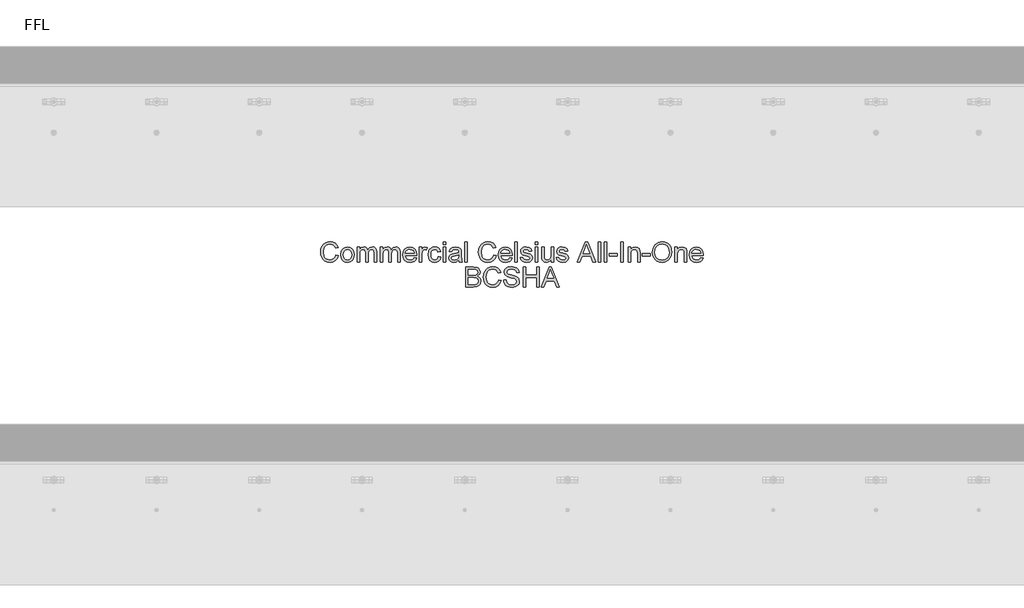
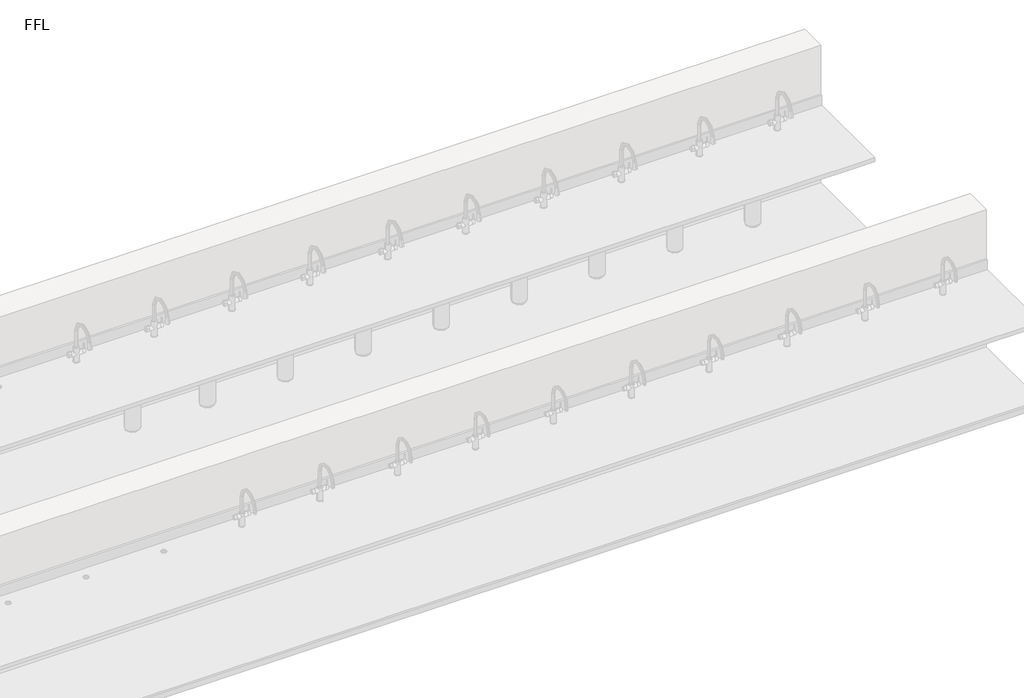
# One storey, part 10 of 10: 1 proxy.
"""IFC4 building model written with IfcOpenShell, lengths in millimetres."""

from ifc_helpers import new_model, si_unit, origin, origin_with_axes, place, context, project, spatial, polyline, outline, extrude, element, save

model = new_model("IFC4")

# Units and contexts
model_context = context("Model", 3, world=origin())
ifc_project = project(units=[si_unit("LENGTHUNIT", "METRE", prefix="MILLI")], contexts=[model_context])

# Site, building, storey
site = spatial("IfcSite", under=ifc_project)
building = spatial("IfcBuilding", under=site)
storey = spatial("IfcBuildingStorey", under=building, Name="FFL", Elevation=0.0)

# Proxy
placement = place(None, origin())
element("IfcBuildingElementProxy", 1, Name="150mm Arial", ObjectType="150mm Arial", at=placement, inside=storey, context=model_context, shape_type="SweptSolid", body=[
    extrude(outline(polyline([(6342.1877841, 6596.3018309), (6360.6493225, 6591.5422155), (6352.1306927, 6570.0292948), (6338.7623033, 6554.3126482), (6321.2022071, 6544.698766), (6300.1084571, 6541.4941386), (6278.6946951, 6543.9190184), (6261.688986, 6551.1936578), (6248.6541302, 6563.065653), (6239.1529283, 6579.2826001), (6233.352147, 6598.3481049), (6231.4185533, 6618.7657732), (6233.6045509, 6640.3012299), (6240.1625437, 6658.8979847), (6250.7499836, 6673.9655929), (6265.0243225, 6684.9136097), (6281.9534091, 6691.5797756), (6300.5050917, 6693.8018309), (6320.7469788, 6690.9262299), (6337.4822552, 6682.299427), (6350.1880845, 6668.4532732), (6358.3416302, 6649.9196193), (6339.8800917, 6645.5205809), (6333.4798514, 6658.9836217), (6324.735861, 6668.2188982), (6313.5399475, 6673.5599439), (6299.7839379, 6675.3402924), (6283.9275677, 6673.3661338), (6270.9017264, 6667.4436578), (6261.0174115, 6658.1948597), (6254.5856206, 6646.2417347), (6249.8800917, 6618.8018309), (6255.4510052, 6586.9989463), (6262.5723994, 6575.1224439), (6272.7947552, 6566.6804367), (6285.0498634, 6561.6368669), (6298.2695148, 6559.955677), (6313.6796711, 6562.2453405), (6326.5207167, 6569.1143309), (6336.2157288, 6580.4905328), (6342.1877841, 6596.3018309)])), origin_with_axes(), (0.0, 0.0, 1.0), 5.0),
    extrude(outline(polyline([(6379.110861, 6598.0326001), (6383.1042504, 6624.1834415), (6395.0844187, 6642.5638501), (6409.8861014, 6651.5692588), (6427.6084571, 6654.5710617), (6447.0029884, 6650.9157131), (6462.4942744, 6639.9496674), (6472.649022, 6622.5383092), (6476.0339379, 6599.5470232), (6474.5375437, 6580.8961818), (6470.048361, 6566.6984655), (6462.697099, 6556.0659535), (6452.6144667, 6548.1107251), (6440.6388057, 6543.1482852), (6427.6084571, 6541.4941386), (6407.9795509, 6545.1359655), (6392.5062937, 6556.0614463), (6382.4597191, 6573.8378886), (6379.110861, 6598.0326001)]), holes=[polyline([(6397.5723994, 6598.0686578), (6399.7088177, 6581.3604246), (6406.1180725, 6569.456879), (6415.7635052, 6562.3309775), (6427.6084571, 6559.955677), (6439.3993225, 6562.3444992), (6449.0267264, 6569.5109655), (6455.4359812, 6581.5722636), (6457.5723994, 6598.6455809), (6455.4224595, 6614.8670352), (6448.9726398, 6626.6083213), (6439.3317143, 6633.7342227), (6427.6084571, 6636.1095232), (6415.7635052, 6633.7432371), (6406.1180725, 6626.644379), (6399.7088177, 6614.7678766), (6397.5723994, 6598.0686578)])]), origin_with_axes(), (0.0, 0.0, 1.0), 5.0),
    extrude(outline(polyline([(6496.8031687, 6543.8018309), (6496.8031687, 6652.2633693), (6515.2647071, 6652.2633693), (6515.2647071, 6634.4148117), (6527.9570148, 6649.0362059), (6546.0219187, 6654.5710617), (6556.2893466, 6653.1603044), (6564.5195148, 6648.9280328), (6574.6877841, 6633.1167347), (6589.0928321, 6649.2074799), (6607.2839379, 6654.5710617), (6621.1616422, 6652.3399919), (6631.4245629, 6645.6467828), (6637.7662095, 6634.3111458), (6639.8800917, 6618.1527924), (6639.8800917, 6543.8018309), (6621.4185533, 6543.8018309), (6621.4185533, 6610.2201001), (6619.7058129, 6625.6347636), (6613.5038898, 6633.2249078), (6602.9570148, 6636.1095232), (6592.9555124, 6634.2615665), (6584.8019667, 6628.7176963), (6579.3797913, 6619.0993068), (6577.5723994, 6605.0277924), (6577.5723994, 6543.8018309), (6559.110861, 6543.8018309), (6559.110861, 6612.2753886), (6554.8380244, 6630.160004), (6549.1995028, 6634.6221434), (6540.829611, 6636.1095232), (6527.1637456, 6632.143177), (6518.0772071, 6620.5326001), (6515.2647071, 6598.5013501), (6515.2647071, 6543.8018309), (6496.8031687, 6543.8018309)])), origin_with_axes(), (0.0, 0.0, 1.0), 5.0),
    extrude(outline(polyline([(6667.5723994, 6543.8018309), (6667.5723994, 6652.2633693), (6686.0339379, 6652.2633693), (6686.0339379, 6634.4148117), (6698.7262456, 6649.0362059), (6716.7911494, 6654.5710617), (6727.0585773, 6653.1603044), (6735.2887456, 6648.9280328), (6745.4570148, 6633.1167347), (6759.8620629, 6649.2074799), (6778.0531687, 6654.5710617), (6791.930873, 6652.3399919), (6802.1937937, 6645.6467828), (6808.5354403, 6634.3111458), (6810.6493225, 6618.1527924), (6810.6493225, 6543.8018309), (6792.1877841, 6543.8018309), (6792.1877841, 6610.2201001), (6790.4750437, 6625.6347636), (6784.2731206, 6633.2249078), (6773.7262456, 6636.1095232), (6763.7247432, 6634.2615665), (6755.5711975, 6628.7176963), (6750.149022, 6619.0993068), (6748.3416302, 6605.0277924), (6748.3416302, 6543.8018309), (6729.8800917, 6543.8018309), (6729.8800917, 6612.2753886), (6725.6072552, 6630.160004), (6719.9687336, 6634.6221434), (6711.5988417, 6636.1095232), (6697.9329764, 6632.143177), (6688.8464379, 6620.5326001), (6686.0339379, 6598.5013501), (6686.0339379, 6543.8018309), (6667.5723994, 6543.8018309)])), origin_with_axes(), (0.0, 0.0, 1.0), 5.0),
    extrude(outline(polyline([(6914.2791302, 6576.1095232), (6932.3800917, 6573.8018309), (6925.8581566, 6560.1630088), (6915.4510052, 6549.9676963), (6901.3930124, 6543.612528), (6883.9185533, 6541.4941386), (6862.2568946, 6545.1494871), (6845.5892264, 6556.1155328), (6834.9612216, 6573.6801362), (6831.4185533, 6597.1311578), (6834.9972792, 6621.3709415), (6845.7334571, 6639.4989463), (6862.1757648, 6650.8030328), (6882.8728802, 6654.5710617), (6902.9254643, 6650.8120472), (6918.9486014, 6639.535004), (6929.4549115, 6621.4430568), (6932.9570148, 6597.2393309), (6932.8488417, 6592.2633693), (6849.8800917, 6592.2633693), (6853.0757047, 6578.4442588), (6860.4990821, 6568.285004), (6871.212724, 6562.0380088), (6884.2791302, 6559.955677), (6902.3800917, 6563.8138501), (6914.2791302, 6576.1095232)]), holes=[polyline([(6849.8800917, 6610.7249078), (6914.4954764, 6610.7249078), (6911.9984812, 6620.4785136), (6907.1036494, 6627.455677), (6896.3404283, 6633.9460617), (6882.8007648, 6636.1095232), (6870.3563538, 6634.3832612), (6860.0663898, 6629.2044751), (6852.9134451, 6621.1320592), (6849.8800917, 6610.7249078)])]), origin_with_axes(), (0.0, 0.0, 1.0), 5.0),
    extrude(outline(polyline([(6951.4185533, 6543.8018309), (6951.4185533, 6652.2633693), (6967.5723994, 6652.2633693), (6967.5723994, 6636.2176963), (6979.0387456, 6651.0013501), (6990.5772071, 6654.5710617), (7009.110861, 6648.8739463), (7002.9449956, 6632.3234655), (6989.9642264, 6636.1095232), (6979.5255244, 6632.4676963), (6972.8728802, 6622.3715424), (6969.8800917, 6600.8090424), (6969.8800917, 6543.8018309), (6951.4185533, 6543.8018309)])), origin_with_axes(), (0.0, 0.0, 1.0), 5.0),
    extrude(outline(polyline([(7089.8800917, 6583.0326001), (7108.3416302, 6580.7249078), (7103.1943946, 6564.3051362), (7093.5219187, 6551.8967828), (7080.2346591, 6544.0947996), (7064.2430725, 6541.4941386), (7044.6051518, 6545.1224439), (7029.2490821, 6556.0073597), (7019.337724, 6573.6711217), (7016.0339379, 6597.6359655), (7021.6769667, 6628.3030328), (7028.798361, 6639.8009294), (7038.876486, 6648.0085617), (7050.9332768, 6652.9304367), (7063.9906687, 6654.5710617), (7079.5901278, 6652.3174559), (7092.0615821, 6645.5566386), (7101.008397, 6634.6491867), (7106.0339379, 6619.955677), (7087.5723994, 6617.6479847), (7079.0086975, 6631.4761097), (7064.1348994, 6636.1095232), (7052.2043105, 6633.8288742), (7042.7346591, 6626.986927), (7036.555272, 6615.2140905), (7034.4954764, 6598.1407732), (7036.5101999, 6580.8375881), (7042.5543706, 6569.0241867), (7051.852748, 6562.2228044), (7063.6300917, 6559.955677), (7073.1898874, 6561.3709415), (7081.0279283, 6565.6167347), (7086.7295509, 6572.8012299), (7089.8800917, 6583.0326001)])), origin_with_axes(), (0.0, 0.0, 1.0), 5.0),
    extrude(outline(polyline([(7124.4954764, 6673.0326001), (7124.4954764, 6691.4941386), (7142.9570148, 6691.4941386), (7142.9570148, 6673.0326001), (7124.4954764, 6673.0326001)])), origin_with_axes(), (0.0, 0.0, 1.0), 5.0),
    extrude(outline(polyline([(7124.4954764, 6543.8018309), (7124.4954764, 6652.2633693), (7142.9570148, 6652.2633693), (7142.9570148, 6543.8018309), (7124.4954764, 6543.8018309)])), origin_with_axes(), (0.0, 0.0, 1.0), 5.0),
    extrude(outline(polyline([(7239.8800917, 6557.6479847), (7221.9774475, 6545.1359655), (7202.1998033, 6541.4941386), (7186.7716182, 6543.6846434), (7175.3909091, 6550.2561578), (7168.3731807, 6560.2351242), (7166.0339379, 6572.6479847), (7169.5675917, 6587.2513501), (7178.8524475, 6597.8523117), (7191.7791302, 6603.910004), (7207.7526879, 6606.6864463), (7239.7719187, 6613.0326001), (7239.8800917, 6617.143177), (7238.6090581, 6625.3823597), (7234.7959571, 6630.7729847), (7226.2683129, 6634.7753886), (7214.3873033, 6636.1095232), (7195.7094187, 6632.5578405), (7186.8031687, 6619.955677), (7168.3416302, 6622.2633693), (7176.3284091, 6640.2922155), (7192.4101398, 6650.8571193), (7216.767111, 6654.5710617), (7239.1409091, 6651.2898117), (7251.7791302, 6643.050629), (7257.4401879, 6630.5205809), (7258.3416302, 6614.3667347), (7258.3416302, 6591.3979847), (7259.2791302, 6559.3246674), (7262.9570148, 6543.8018309), (7244.4954764, 6543.8018309), (7239.8800917, 6557.6479847)]), holes=[polyline([(7239.8800917, 6594.5710617), (7210.0964379, 6588.910004), (7194.2130244, 6585.9172155), (7187.0195148, 6581.049427), (7184.4954764, 6573.9460617), (7189.9942744, 6563.9580809), (7206.1300917, 6559.955677), (7224.8079764, 6564.3727443), (7236.8512456, 6575.0638501), (7239.7719187, 6589.3426963), (7239.8800917, 6594.5710617)])]), origin_with_axes(), (0.0, 0.0, 1.0), 5.0),
    extrude(outline(polyline([(7283.7262456, 6543.8018309), (7283.7262456, 6691.4941386), (7302.1877841, 6691.4941386), (7302.1877841, 6543.8018309), (7283.7262456, 6543.8018309)])), origin_with_axes(), (0.0, 0.0, 1.0), 5.0),
    extrude(outline(polyline([(7493.7262456, 6596.3018309), (7512.1877841, 6591.5422155), (7503.6691542, 6570.0292948), (7490.3007648, 6554.3126482), (7472.7406687, 6544.698766), (7451.6469187, 6541.4941386), (7430.2331566, 6543.9190184), (7413.2274475, 6551.1936578), (7400.1925917, 6563.065653), (7390.6913898, 6579.2826001), (7384.8906086, 6598.3481049), (7382.9570148, 6618.7657732), (7385.1430124, 6640.3012299), (7391.7010052, 6658.8979847), (7402.2884451, 6673.9655929), (7416.5627841, 6684.9136097), (7433.4918706, 6691.5797756), (7452.0435533, 6693.8018309), (7472.2854403, 6690.9262299), (7489.0207167, 6682.299427), (7501.7265461, 6668.4532732), (7509.8800917, 6649.9196193), (7491.4185533, 6645.5205809), (7485.0183129, 6658.9836217), (7476.2743225, 6668.2188982), (7465.0784091, 6673.5599439), (7451.3223994, 6675.3402924), (7435.4660292, 6673.3661338), (7422.4401879, 6667.4436578), (7412.555873, 6658.1948597), (7406.1240821, 6646.2417347), (7401.4185533, 6618.8018309), (7406.9894667, 6586.9989463), (7414.110861, 6575.1224439), (7424.3332167, 6566.6804367), (7436.5883249, 6561.6368669), (7449.8079764, 6559.955677), (7465.2181326, 6562.2453405), (7478.0591783, 6569.1143309), (7487.7541903, 6580.4905328), (7493.7262456, 6596.3018309)])), origin_with_axes(), (0.0, 0.0, 1.0), 5.0),
    extrude(outline(polyline([(7611.2022071, 6576.1095232), (7629.3031687, 6573.8018309), (7622.7812336, 6560.1630088), (7612.3740821, 6549.9676963), (7598.3160893, 6543.612528), (7580.8416302, 6541.4941386), (7559.1799716, 6545.1494871), (7542.5123033, 6556.1155328), (7531.8842985, 6573.6801362), (7528.3416302, 6597.1311578), (7531.9203562, 6621.3709415), (7542.6565341, 6639.4989463), (7559.0988417, 6650.8030328), (7579.7959571, 6654.5710617), (7599.8485413, 6650.8120472), (7615.8716783, 6639.535004), (7626.3779884, 6621.4430568), (7629.8800917, 6597.2393309), (7629.7719187, 6592.2633693), (7546.8031687, 6592.2633693), (7549.9987816, 6578.4442588), (7557.4221591, 6568.285004), (7568.1358009, 6562.0380088), (7581.2022071, 6559.955677), (7599.3031687, 6563.8138501), (7611.2022071, 6576.1095232)]), holes=[polyline([(7546.8031687, 6610.7249078), (7611.4185533, 6610.7249078), (7608.9215581, 6620.4785136), (7604.0267264, 6627.455677), (7593.2635052, 6633.9460617), (7579.7238417, 6636.1095232), (7567.2794307, 6634.3832612), (7556.9894667, 6629.2044751), (7549.836522, 6621.1320592), (7546.8031687, 6610.7249078)])]), origin_with_axes(), (0.0, 0.0, 1.0), 5.0),
    extrude(outline(polyline([(7648.3416302, 6543.8018309), (7648.3416302, 6691.4941386), (7666.8031687, 6691.4941386), (7666.8031687, 6543.8018309), (7648.3416302, 6543.8018309)])), origin_with_axes(), (0.0, 0.0, 1.0), 5.0),
    extrude(outline(polyline([(7687.5723994, 6576.1095232), (7706.0339379, 6578.4172155), (7708.9455966, 6570.5205809), (7714.579611, 6564.7152924), (7734.1589379, 6559.955677), (7752.9810533, 6564.3186578), (7759.110861, 6574.5590424), (7752.9449956, 6582.8523117), (7733.9425917, 6588.1167347), (7706.142111, 6597.1491867), (7694.0086975, 6607.6960617), (7689.8800917, 6622.5878886), (7693.1973994, 6636.3438982), (7702.2478802, 6646.8547155), (7713.9846591, 6652.3174559), (7729.8680725, 6654.5710617), (7752.3320148, 6650.9472636), (7766.610861, 6641.1395713), (7772.9570148, 6624.5710617), (7754.4954764, 6622.2633693), (7747.5543706, 6632.4496674), (7731.3103802, 6636.1095232), (7713.642111, 6632.611927), (7708.3416302, 6624.4628886), (7710.5411494, 6619.0902924), (7717.4281687, 6615.0157732), (7733.329611, 6611.0854847), (7760.4269667, 6602.3955809), (7773.0111014, 6592.5518309), (7777.5723994, 6576.5061578), (7772.2178321, 6558.8378886), (7756.767111, 6546.019379), (7733.9065341, 6541.4941386), (7715.2917504, 6543.675629), (7701.7070148, 6550.2201001), (7692.6385052, 6561.0554367), (7687.5723994, 6576.1095232)])), origin_with_axes(), (0.0, 0.0, 1.0), 5.0),
    extrude(outline(polyline([(7798.3416302, 6543.8018309), (7798.3416302, 6652.2633693), (7816.8031687, 6652.2633693), (7816.8031687, 6543.8018309), (7798.3416302, 6543.8018309)])), origin_with_axes(), (0.0, 0.0, 1.0), 5.0),
    extrude(outline(polyline([(7798.3416302, 6673.0326001), (7798.3416302, 6691.4941386), (7816.8031687, 6691.4941386), (7816.8031687, 6673.0326001), (7798.3416302, 6673.0326001)])), origin_with_axes(), (0.0, 0.0, 1.0), 5.0),
    extrude(outline(polyline([(7913.7262456, 6543.8018309), (7913.7262456, 6562.4436578), (7899.267111, 6546.7315184), (7880.4089379, 6541.4941386), (7863.0471591, 6545.1720232), (7851.0760052, 6554.4027924), (7845.5772071, 6567.9965424), (7844.4954764, 6585.160004), (7844.4954764, 6652.2633693), (7862.9570148, 6652.2633693), (7862.9570148, 6593.8499078), (7864.0748033, 6575.0277924), (7871.376486, 6563.9761097), (7885.1324956, 6559.955677), (7900.5471591, 6564.066254), (7910.7334571, 6575.2621674), (7913.7262456, 6595.8330809), (7913.7262456, 6652.2633693), (7932.1877841, 6652.2633693), (7932.1877841, 6543.8018309), (7913.7262456, 6543.8018309)])), origin_with_axes(), (0.0, 0.0, 1.0), 5.0),
    extrude(outline(polyline([(7950.6493225, 6576.1095232), (7969.110861, 6578.4172155), (7972.0225196, 6570.5205809), (7977.6565341, 6564.7152924), (7997.235861, 6559.955677), (8016.0579764, 6564.3186578), (8022.1877841, 6574.5590424), (8016.0219187, 6582.8523117), (7997.0195148, 6588.1167347), (7969.2190341, 6597.1491867), (7957.0856206, 6607.6960617), (7952.9570148, 6622.5878886), (7956.2743225, 6636.3438982), (7965.3248033, 6646.8547155), (7977.0615821, 6652.3174559), (7992.9449956, 6654.5710617), (8015.4089379, 6650.9472636), (8029.6877841, 6641.1395713), (8036.0339379, 6624.5710617), (8017.5723994, 6622.2633693), (8010.6312937, 6632.4496674), (7994.3873033, 6636.1095232), (7976.7190341, 6632.611927), (7971.4185533, 6624.4628886), (7973.6180725, 6619.0902924), (7980.5050917, 6615.0157732), (7996.4065341, 6611.0854847), (8023.5038898, 6602.3955809), (8036.0880244, 6592.5518309), (8040.6493225, 6576.5061578), (8035.2947552, 6558.8378886), (8019.8440341, 6546.019379), (7996.9834571, 6541.4941386), (7978.3686735, 6543.675629), (7964.7839379, 6550.2201001), (7955.7154283, 6561.0554367), (7950.6493225, 6576.1095232)])), origin_with_axes(), (0.0, 0.0, 1.0), 5.0),
    extrude(outline(polyline([(8104.2190341, 6543.8018309), (8163.173361, 6691.4941386), (8178.8945148, 6691.4941386), (8237.8488417, 6543.8018309), (8218.3416302, 6543.8018309), (8201.4305725, 6589.955677), (8140.6012456, 6589.955677), (8123.7262456, 6543.8018309), (8104.2190341, 6543.8018309)]), holes=[polyline([(8147.3800917, 6608.4172155), (8194.6877841, 6608.4172155), (8181.3824956, 6644.7273117), (8171.0339379, 6673.0326001), (8161.8392264, 6647.9003886), (8147.3800917, 6608.4172155)])]), origin_with_axes(), (0.0, 0.0, 1.0), 5.0),
    extrude(outline(polyline([(8255.2647071, 6543.8018309), (8255.2647071, 6691.4941386), (8273.7262456, 6691.4941386), (8273.7262456, 6543.8018309), (8255.2647071, 6543.8018309)])), origin_with_axes(), (0.0, 0.0, 1.0), 5.0),
    extrude(outline(polyline([(8301.4185533, 6543.8018309), (8301.4185533, 6691.4941386), (8319.8800917, 6691.4941386), (8319.8800917, 6543.8018309), (8301.4185533, 6543.8018309)])), origin_with_axes(), (0.0, 0.0, 1.0), 5.0),
    extrude(outline(polyline([(8338.3416302, 6587.6479847), (8338.3416302, 6606.1095232), (8396.0339379, 6606.1095232), (8396.0339379, 6587.6479847), (8338.3416302, 6587.6479847)])), origin_with_axes(), (0.0, 0.0, 1.0), 5.0),
    extrude(outline(polyline([(8421.4185533, 6543.8018309), (8421.4185533, 6691.4941386), (8439.8800917, 6691.4941386), (8439.8800917, 6543.8018309), (8421.4185533, 6543.8018309)])), origin_with_axes(), (0.0, 0.0, 1.0), 5.0),
    extrude(outline(polyline([(8474.4954764, 6543.8018309), (8474.4954764, 6652.2633693), (8492.9570148, 6652.2633693), (8492.9570148, 6637.1191386), (8507.0736014, 6650.2080809), (8526.3464379, 6654.5710617), (8543.7803321, 6651.0554367), (8555.6793706, 6641.8246674), (8561.2142264, 6628.2489463), (8562.1877841, 6610.4003886), (8562.1877841, 6543.8018309), (8543.7262456, 6543.8018309), (8543.7262456, 6607.9124078), (8541.5988417, 6624.2465424), (8534.0808129, 6632.8823597), (8521.4065341, 6636.1095232), (8510.5937336, 6634.2976242), (8501.376486, 6628.861927), (8495.0618826, 6618.3601242), (8492.9570148, 6601.3499078), (8492.9570148, 6543.8018309), (8474.4954764, 6543.8018309)])), origin_with_axes(), (0.0, 0.0, 1.0), 5.0),
    extrude(outline(polyline([(8578.3416302, 6587.6479847), (8578.3416302, 6606.1095232), (8636.0339379, 6606.1095232), (8636.0339379, 6587.6479847), (8578.3416302, 6587.6479847)])), origin_with_axes(), (0.0, 0.0, 1.0), 5.0),
    extrude(outline(polyline([(8652.1877841, 6615.7008693), (8657.1096591, 6648.3601242), (8671.8752841, 6673.0686578), (8694.4203562, 6688.6185376), (8722.6805725, 6693.8018309), (8742.0525677, 6691.3679367), (8759.423361, 6684.066254), (8773.8464379, 6672.4106049), (8784.3752841, 6656.9148117), (8790.8115821, 6638.3270713), (8792.9570148, 6617.3955809), (8790.6989018, 6596.1846434), (8783.9245629, 6577.3354847), (8773.0080966, 6561.8126482), (8758.3236014, 6550.580677), (8741.1015461, 6543.7657732), (8722.5723994, 6541.4941386), (8702.9029283, 6544.0046554), (8685.4329764, 6551.5362059), (8671.0459571, 6563.4082011), (8660.6252841, 6578.940052), (8654.2971591, 6596.8111458), (8652.1877841, 6615.7008693)]), holes=[polyline([(8670.6493225, 6615.5205809), (8674.3407288, 6592.4166145), (8685.4149475, 6574.8114463), (8702.0600797, 6563.6696193), (8722.4642264, 6559.955677), (8743.165849, 6563.705677), (8759.8380244, 6574.955677), (8770.8311134, 6593.1017107), (8774.4954764, 6617.5398117), (8772.9269667, 6633.8829607), (8768.2214379, 6648.0085617), (8760.5005845, 6659.5605448), (8749.8861014, 6668.1828405), (8737.0811134, 6673.5509294), (8722.7887456, 6675.3402924), (8702.9299716, 6671.8922756), (8686.0459571, 6661.5482251), (8674.4984812, 6643.1452804), (8670.6493225, 6615.5205809)])]), origin_with_axes(), (0.0, 0.0, 1.0), 5.0),
    extrude(outline(polyline([(8816.0339379, 6543.8018309), (8816.0339379, 6652.2633693), (8834.4954764, 6652.2633693), (8834.4954764, 6637.1191386), (8848.6120629, 6650.2080809), (8867.8848994, 6654.5710617), (8885.3187937, 6651.0554367), (8897.2178321, 6641.8246674), (8902.7526879, 6628.2489463), (8903.7262456, 6610.4003886), (8903.7262456, 6543.8018309), (8885.2647071, 6543.8018309), (8885.2647071, 6607.9124078), (8883.1373033, 6624.2465424), (8875.6192744, 6632.8823597), (8862.9449956, 6636.1095232), (8852.1321951, 6634.2976242), (8842.9149475, 6628.861927), (8836.6003441, 6618.3601242), (8834.4954764, 6601.3499078), (8834.4954764, 6543.8018309), (8816.0339379, 6543.8018309)])), origin_with_axes(), (0.0, 0.0, 1.0), 5.0),
    extrude(outline(polyline([(9005.048361, 6576.1095232), (9023.1493225, 6573.8018309), (9016.6273874, 6560.1630088), (9006.220236, 6549.9676963), (8992.1622432, 6543.612528), (8974.6877841, 6541.4941386), (8953.0261254, 6545.1494871), (8936.3584571, 6556.1155328), (8925.7304523, 6573.6801362), (8922.1877841, 6597.1311578), (8925.76651, 6621.3709415), (8936.5026879, 6639.4989463), (8952.9449956, 6650.8030328), (8973.642111, 6654.5710617), (8993.6946951, 6650.8120472), (9009.7178321, 6639.535004), (9020.2241422, 6621.4430568), (9023.7262456, 6597.2393309), (9023.6180725, 6592.2633693), (8940.6493225, 6592.2633693), (8943.8449355, 6578.4442588), (8951.2683129, 6568.285004), (8961.9819547, 6562.0380088), (8975.048361, 6559.955677), (8993.1493225, 6563.8138501), (9005.048361, 6576.1095232)]), holes=[polyline([(8940.6493225, 6610.7249078), (9005.2647071, 6610.7249078), (9002.7677119, 6620.4785136), (8997.8728802, 6627.455677), (8987.1096591, 6633.9460617), (8973.5699956, 6636.1095232), (8961.1255845, 6634.3832612), (8950.8356206, 6629.2044751), (8943.6826759, 6621.1320592), (8940.6493225, 6610.7249078)])]), origin_with_axes(), (0.0, 0.0, 1.0), 5.0),
    extrude(outline(polyline([(7289.4954764, 6361.4941386), (7289.4954764, 6509.1864463), (7345.8536494, 6509.1864463), (7373.4558129, 6504.8414943), (7382.7316542, 6499.3291746), (7389.7538898, 6491.4821193), (7395.6493225, 6472.5878886), (7390.6913898, 6455.3342828), (7375.7094187, 6442.2633693), (7386.1706566, 6436.800629), (7393.9005244, 6428.4893309), (7398.6736615, 6417.8793549), (7400.2647071, 6405.5205809), (7395.9197552, 6385.6708213), (7385.1565341, 6371.5362059), (7369.0928321, 6364.0362059), (7345.4209571, 6361.4941386), (7289.4954764, 6361.4941386)]), holes=[polyline([(7307.9570148, 6449.1864463), (7341.6709571, 6449.1864463), (7361.3584571, 6450.7729847), (7373.2034091, 6457.6059174), (7377.1877841, 6469.6311578), (7373.4738417, 6481.674427), (7362.8368225, 6488.7958213), (7339.110861, 6490.7249078), (7307.9570148, 6490.7249078), (7307.9570148, 6449.1864463)]), polyline([(7307.9570148, 6379.955677), (7345.8175917, 6379.955677), (7359.5195148, 6380.6768309), (7371.1120629, 6384.6972636), (7378.7923514, 6392.9003886), (7381.8031687, 6405.3402924), (7378.2695148, 6419.691254), (7366.8211975, 6428.2549559), (7344.0147071, 6430.7249078), (7307.9570148, 6430.7249078), (7307.9570148, 6379.955677)])]), origin_with_axes(), (0.0, 0.0, 1.0), 5.0),
    extrude(outline(polyline([(7529.4954764, 6413.9941386), (7547.9570148, 6409.2345232), (7539.438385, 6387.7216025), (7526.0699956, 6372.0049559), (7508.5098994, 6362.3910737), (7487.4161494, 6359.1864463), (7466.0023874, 6361.6113261), (7448.9966783, 6368.8859655), (7435.9618225, 6380.7579607), (7426.4606206, 6396.9749078), (7420.6598393, 6416.0404126), (7418.7262456, 6436.4580809), (7420.9122432, 6457.9935376), (7427.470236, 6476.5902924), (7438.0576759, 6491.6579006), (7452.3320148, 6502.6059174), (7469.2611014, 6509.2720833), (7487.8127841, 6511.4941386), (7508.0546711, 6508.6185376), (7524.7899475, 6499.9917347), (7537.4957768, 6486.1455809), (7545.6493225, 6467.611927), (7527.1877841, 6463.2128886), (7520.7875437, 6476.6759294), (7512.0435533, 6485.9112059), (7500.8476398, 6491.2522516), (7487.0916302, 6493.0326001), (7471.23526, 6491.0584415), (7458.2094187, 6485.1359655), (7448.3251038, 6475.8871674), (7441.8933129, 6463.9340424), (7437.1877841, 6436.4941386), (7442.7586975, 6404.691254), (7449.8800917, 6392.8147516), (7460.1024475, 6384.3727443), (7472.3575557, 6379.3291746), (7485.5772071, 6377.6479847), (7500.9873634, 6379.9376482), (7513.8284091, 6386.8066386), (7523.5234211, 6398.1828405), (7529.4954764, 6413.9941386)])), origin_with_axes(), (0.0, 0.0, 1.0), 5.0),
    extrude(outline(polyline([(7566.4185533, 6412.2633693), (7584.8800917, 6412.2633693), (7590.829611, 6393.783802), (7605.360861, 6382.1011097), (7627.5002841, 6377.6479847), (7646.7911494, 6381.019379), (7659.2490821, 6390.2862059), (7663.3416302, 6402.6720232), (7660.2767264, 6414.1924559), (7647.7286494, 6422.5758693), (7620.8476398, 6429.6251482), (7591.9113417, 6438.7297155), (7576.2082167, 6452.4676963), (7571.0339379, 6470.8210617), (7572.633998, 6481.6338621), (7577.4341783, 6491.7164943), (7585.3082768, 6500.2621674), (7596.1300917, 6506.4640905), (7623.4978802, 6511.4941386), (7652.704611, 6506.2297155), (7663.9005244, 6499.7303165), (7672.1757648, 6490.7609655), (7677.4131446, 6479.8805568), (7679.4954764, 6467.6479847), (7661.0339379, 6467.6479847), (7657.6445148, 6478.6636097), (7650.5772071, 6486.6143309), (7639.5345389, 6491.4280328), (7624.2190341, 6493.0326001), (7608.5429523, 6491.4460617), (7597.7887456, 6486.6864463), (7591.5687937, 6479.6822395), (7589.4954764, 6471.361927), (7590.9648273, 6464.2675761), (7595.3728802, 6458.5614463), (7625.517111, 6448.2489463), (7658.1853802, 6438.9821193), (7668.7097191, 6432.284403), (7676.0519667, 6424.018177), (7681.8031687, 6403.1407732), (7680.149022, 6391.7600641), (7675.1865821, 6381.0554367), (7667.1186735, 6371.8426963), (7656.1481206, 6364.9376482), (7628.2214379, 6359.1864463), (7610.133998, 6360.736927), (7595.2466783, 6365.3883693), (7583.3882047, 6373.158802), (7574.3873033, 6384.066254), (7568.6090581, 6397.3535136), (7566.4185533, 6412.2633693)])), origin_with_axes(), (0.0, 0.0, 1.0), 5.0),
    extrude(outline(polyline([(7709.4954764, 6361.4941386), (7709.4954764, 6509.1864463), (7727.9570148, 6509.1864463), (7727.9570148, 6449.1864463), (7806.4185533, 6449.1864463), (7806.4185533, 6509.1864463), (7824.8800917, 6509.1864463), (7824.8800917, 6361.4941386), (7806.4185533, 6361.4941386), (7806.4185533, 6430.7249078), (7727.9570148, 6430.7249078), (7727.9570148, 6361.4941386), (7709.4954764, 6361.4941386)])), origin_with_axes(), (0.0, 0.0, 1.0), 5.0),
    extrude(outline(polyline([(7839.9882648, 6361.4941386), (7898.9425917, 6509.1864463), (7914.6637456, 6509.1864463), (7973.6180725, 6361.4941386), (7954.110861, 6361.4941386), (7937.1998033, 6407.6479847), (7876.3704764, 6407.6479847), (7859.4954764, 6361.4941386), (7839.9882648, 6361.4941386)]), holes=[polyline([(7883.1493225, 6426.1095232), (7930.4570148, 6426.1095232), (7917.1517264, 6462.4196193), (7906.8031687, 6490.7249078), (7897.6084571, 6465.5926963), (7883.1493225, 6426.1095232)])]), origin_with_axes(), (0.0, 0.0, 1.0), 5.0),
])

save(model, "model.ifc")
